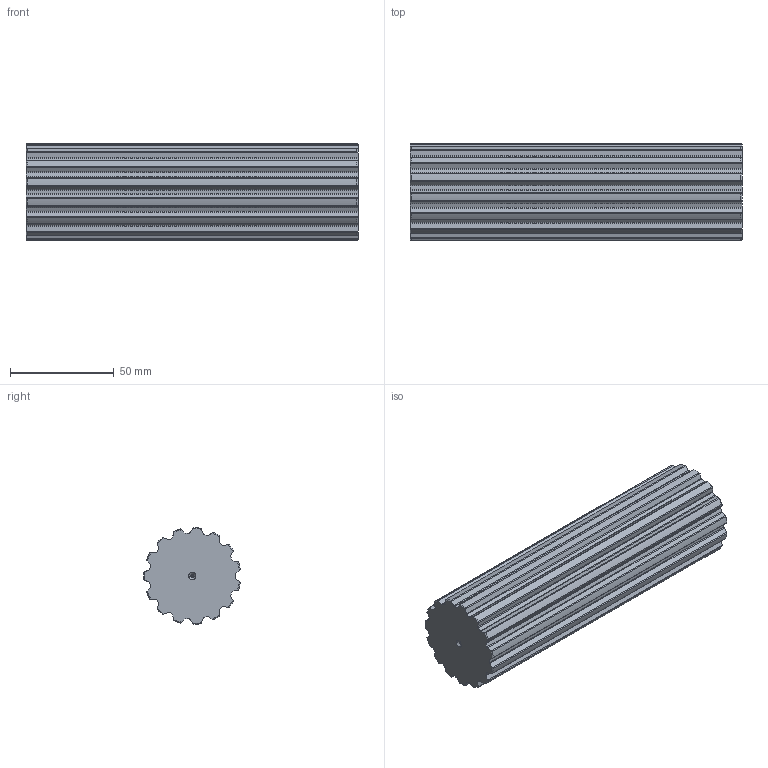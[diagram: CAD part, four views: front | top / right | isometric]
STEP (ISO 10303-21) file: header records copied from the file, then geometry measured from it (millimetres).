
FILE_DESCRIPTION(('STEP AP214'),'1');
FILE_NAME('bart_15.stp','2018-03-02T14:30:22',('TraceParts'),('TraceParts S.A.'),'Spatial InterOp 3D',' ',' ');
FILE_SCHEMA(('automotive_design'));
Length unit declared in the file: millimetre
Products named in the file (1): bart_15
Bounding box: 160 x 46.51 x 46.71 mm (x, y, z)
Volume: 247945.1 mm3; surface area: 31999.6 mm2
Topology: 1 solids, 1 shells, 166 faces, 484 edges, 318 vertices
Faces by surface type: cylinder 94, cone 40, plane 32
Entity records: 5757 total; most frequent: CARTESIAN_POINT 1505, ORIENTED_EDGE 960, DIRECTION 860, EDGE_CURVE 480, AXIS2_PLACEMENT_3D 333, VERTEX_POINT 318, LINE 194, VECTOR 194
